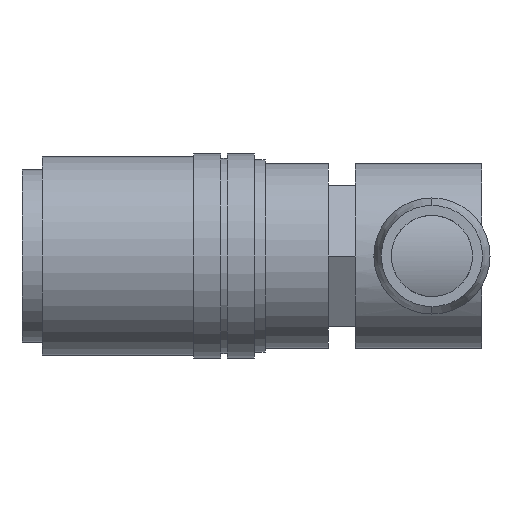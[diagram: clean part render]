
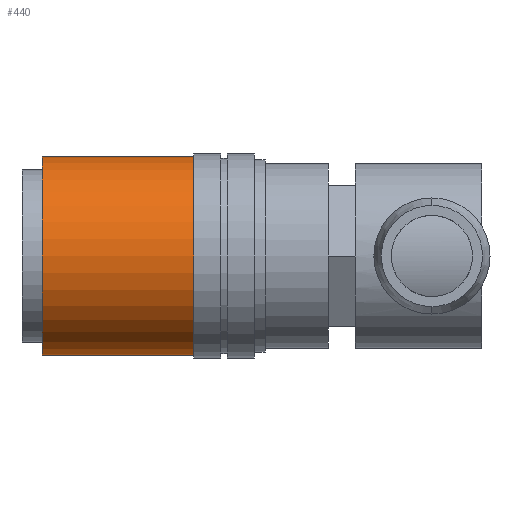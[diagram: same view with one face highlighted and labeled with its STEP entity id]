
A CAD part, front view. The second image highlights one B-rep face of the part: STEP entity #440.
In plain terms, the highlighted cylindrical face has radius 11 mm (diameter 22 mm), a partial arc.
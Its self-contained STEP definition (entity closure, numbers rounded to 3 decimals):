
#27 = CARTESIAN_POINT ( 'NONE',  ( 19.058, 0., -11. ) ) ;
#60 = AXIS2_PLACEMENT_3D ( 'NONE', #101, #1321, #834 ) ;
#67 = EDGE_LOOP ( 'NONE', ( #1219, #561, #1519, #1175 ) ) ;
#84 = EDGE_CURVE ( 'NONE', #796, #1376, #769, .T. ) ;
#101 = CARTESIAN_POINT ( 'NONE',  ( 19.058, 0., 0. ) ) ;
#107 = DIRECTION ( 'NONE',  ( -1., 0., 0. ) ) ;
#181 = LINE ( 'NONE', #669, #1447 ) ;
#440 = ADVANCED_FACE ( 'NONE', ( #1584 ), #1543, .T. ) ;
#468 = CARTESIAN_POINT ( 'NONE',  ( 2.261, 0., 11. ) ) ;
#506 = DIRECTION ( 'NONE',  ( -1., 0., 0. ) ) ;
#533 = EDGE_CURVE ( 'NONE', #1120, #796, #869, .T. ) ;
#561 = ORIENTED_EDGE ( 'NONE', *, *, #533, .T. ) ;
#591 = CARTESIAN_POINT ( 'NONE',  ( 2.261, 0., -11. ) ) ;
#611 = DIRECTION ( 'NONE',  ( 0., 0., 1. ) ) ;
#621 = CIRCLE ( 'NONE', #1389, 11. ) ;
#665 = DIRECTION ( 'NONE',  ( -1., 0., 0. ) ) ;
#669 = CARTESIAN_POINT ( 'NONE',  ( 0., 0., -11. ) ) ;
#725 = VECTOR ( 'NONE', #1394, 1000. ) ;
#769 = LINE ( 'NONE', #1381, #725 ) ;
#796 = VERTEX_POINT ( 'NONE', #1536 ) ;
#834 = DIRECTION ( 'NONE',  ( 0., 0., 1. ) ) ;
#867 = CARTESIAN_POINT ( 'NONE',  ( 2.261, 0., 0. ) ) ;
#869 = CIRCLE ( 'NONE', #60, 11. ) ;
#938 = EDGE_CURVE ( 'NONE', #1043, #1376, #621, .T. ) ;
#1043 = VERTEX_POINT ( 'NONE', #591 ) ;
#1090 = DIRECTION ( 'NONE',  ( 0., 0., 1. ) ) ;
#1120 = VERTEX_POINT ( 'NONE', #27 ) ;
#1175 = ORIENTED_EDGE ( 'NONE', *, *, #938, .F. ) ;
#1219 = ORIENTED_EDGE ( 'NONE', *, *, #1234, .F. ) ;
#1234 = EDGE_CURVE ( 'NONE', #1120, #1043, #181, .T. ) ;
#1238 = CARTESIAN_POINT ( 'NONE',  ( 0., 0., 0. ) ) ;
#1321 = DIRECTION ( 'NONE',  ( -1., 0., 0. ) ) ;
#1376 = VERTEX_POINT ( 'NONE', #468 ) ;
#1381 = CARTESIAN_POINT ( 'NONE',  ( 0., 0., 11. ) ) ;
#1389 = AXIS2_PLACEMENT_3D ( 'NONE', #867, #107, #611 ) ;
#1394 = DIRECTION ( 'NONE',  ( -1., 0., 0. ) ) ;
#1447 = VECTOR ( 'NONE', #665, 1000. ) ;
#1519 = ORIENTED_EDGE ( 'NONE', *, *, #84, .T. ) ;
#1536 = CARTESIAN_POINT ( 'NONE',  ( 19.058, 0., 11. ) ) ;
#1543 = CYLINDRICAL_SURFACE ( 'NONE', #1594, 11. ) ;
#1584 = FACE_OUTER_BOUND ( 'NONE', #67, .T. ) ;
#1594 = AXIS2_PLACEMENT_3D ( 'NONE', #1238, #506, #1090 ) ;
